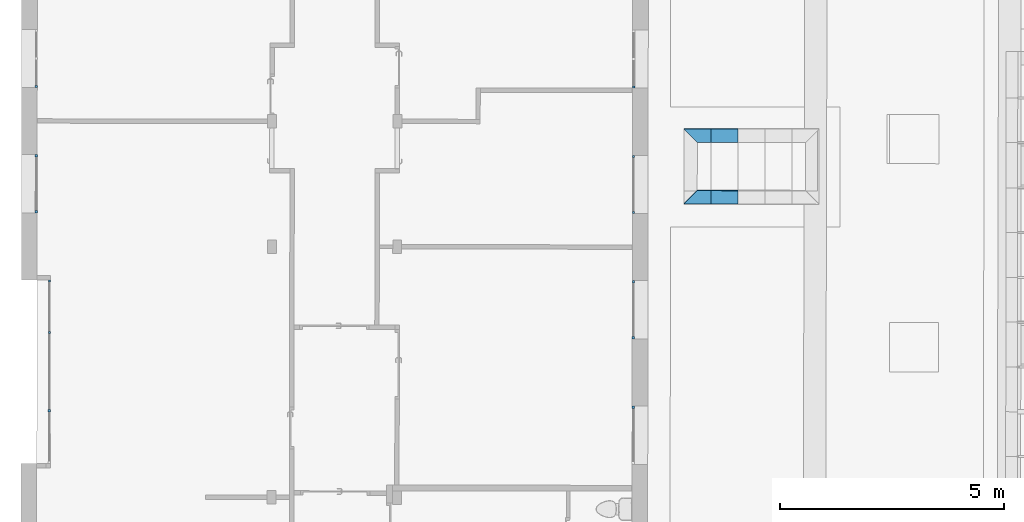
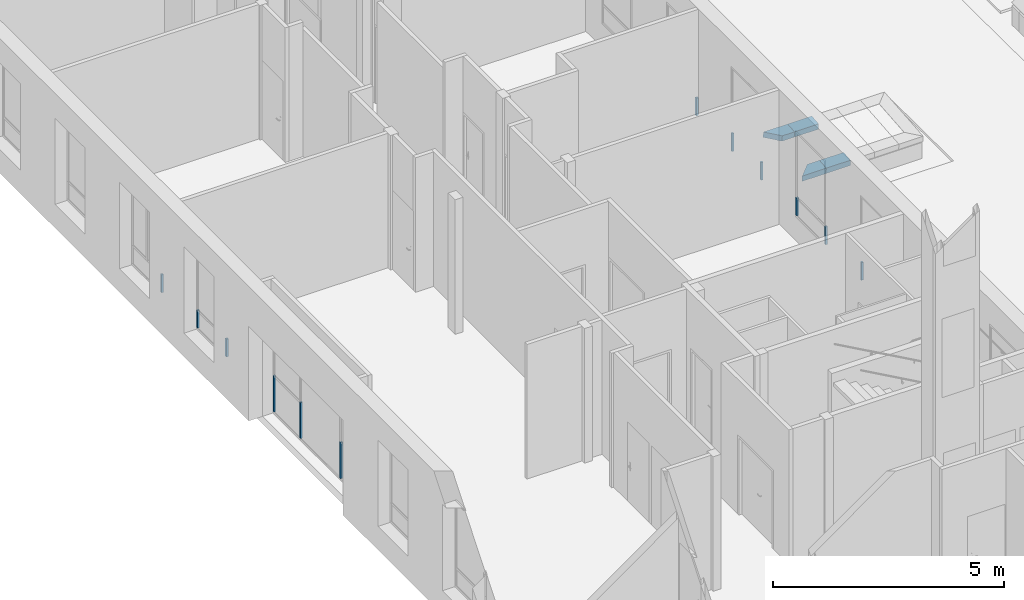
# One storey, part 24 of 101: 16 members, 8 elements without a shape of their own.
"""IFC2X3 building model written with IfcOpenShell, lengths in metres."""

from ifc_helpers import new_model, entity, si_unit, converted_unit, derived_unit, direction, frame, frame_2d, origin, origin_2d_with_axis, place, context, subcontext, project, spatial, polyline, rectangle, outline, extrude, source, transform, mapped, material, type_object, type_shapes, element, aggregate, save


model = new_model("IFC2X3")

# Units and contexts
model_context = context("Model", 3, precision=1e-05, world=origin(), true_north=direction((6.123233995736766e-17, 1.0)))
body_context = subcontext(model_context, "Body", "Model", "MODEL_VIEW")
ifc_project = project(units=[si_unit("LENGTHUNIT", "METRE"), si_unit("AREAUNIT", "SQUARE_METRE"), converted_unit("PLANEANGLEUNIT", "DEGREE", entity("IfcPlaneAngleMeasure", 0.017453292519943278), si_unit("PLANEANGLEUNIT", "RADIAN"), dimensions=[0, 0, 0, 0, 0, 0, 0]), derived_unit("THERMALTRANSMITTANCEUNIT", [(si_unit("MASSUNIT", "GRAM", prefix="KILO"), 1), (si_unit("THERMODYNAMICTEMPERATUREUNIT", "KELVIN"), -1), (si_unit("TIMEUNIT", "SECOND"), -3)])], contexts=[model_context])

# Site, building, storey
site_placement = place(None, frame((1253.6752467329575, 2072.143113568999, 91.49999999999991), z_axis=(0.0, 0.0, 1.0), x_axis=(0.7237211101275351, 0.6900925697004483, 0.0)))
site = spatial("IfcSite", under=ifc_project, at=site_placement, Name="Surface", CompositionType="ELEMENT")
building_placement = place(site_placement, origin())
building = spatial("IfcBuilding", under=site, at=building_placement, CompositionType="ELEMENT")
storey_placement = place(building_placement, origin())
storey = spatial("IfcBuildingStorey", under=building, at=storey_placement, Name="0- Rdc", CompositionType="ELEMENT", Elevation=-5.764692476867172e-13)

# Curtain wall, members
curtain_wall_type_1 = type_object("IfcCurtainWallType", Name="Mur-rideau:Menuiserie Ext 1F+1OB VERTIC", PredefinedType="NOTDEFINED")
curtain_wall_1_placement = place(storey_placement, origin())
curtain_wall_1 = element("IfcCurtainWall", 1, at=curtain_wall_1_placement, inside=storey, type_object=curtain_wall_type_1, Name="Mur-rideau:Menuiserie Ext 1F+1OB VERTIC", ObjectType="Mur-rideau:Menuiserie Ext 1F+1OB VERTIC")
ifc_material_1 = material(Name="OMD_Aluminium Men Ext")
member_type_1 = type_object("IfcMemberType", Name="Meneau rectangulaire:50x50", PredefinedType="MULLION", material=ifc_material_1)
shared_shape_1 = source(origin(), body_context, "Body", "SweptSolid", [
    extrude(rectangle(XDim=0.05, YDim=0.049999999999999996, at=origin_2d_with_axis()), frame((-0.025, 0.0, -0.4699999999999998), z_axis=(0.0, 0.0, 1.0), x_axis=(-1.0, 0.0, 0.0)), (0.0, 0.0, 1.0), 0.4699999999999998),
])
type_shapes(member_type_1, [shared_shape_1])
member_1_placement = place(curtain_wall_1_placement, frame((159.56004066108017, 20.33143924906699, 0.6699999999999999), z_axis=(0.0, 0.0, -1.0), x_axis=(0.6911544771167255, 0.7227070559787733, 0.0)))
member_1 = element("IfcMember", 2, at=member_1_placement, type_object=member_type_1, material=ifc_material_1, Name="Meneau rectangulaire:50x50", ObjectType="Meneau rectangulaire:50x50", context=body_context, shape_type="MappedRepresentation", body=[
    mapped(shared_shape_1, transform((0.0, 0.0, 0.0), scale=1.0)),
])
member_type_2 = type_object("IfcMemberType", Name="Meneau rectangulaire:50x50", PredefinedType="MULLION", material=ifc_material_1)
shared_shape_2 = source(origin(), body_context, "Body", "SweptSolid", [
    extrude(rectangle(XDim=0.05, YDim=0.049999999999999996, at=origin_2d_with_axis()), frame((-0.025, 0.0, -0.4699999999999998), z_axis=(0.0, 0.0, 1.0), x_axis=(-1.0, 0.0, 0.0)), (0.0, 0.0, 1.0), 0.4699999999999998),
])
type_shapes(member_type_2, [shared_shape_2])
member_2_placement = place(curtain_wall_1_placement, frame((158.66175001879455, 19.392139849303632, 1.14), z_axis=(0.0, 0.0, 1.0), x_axis=(-0.6911544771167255, -0.7227070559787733, 0.0)))
member_2 = element("IfcMember", 3, at=member_2_placement, type_object=member_type_2, material=ifc_material_1, Name="Meneau rectangulaire:50x50", ObjectType="Meneau rectangulaire:50x50", context=body_context, shape_type="MappedRepresentation", body=[
    mapped(shared_shape_2, transform((0.0, 0.0, 0.0), scale=1.0)),
])
aggregate(curtain_wall_1, [member_1, member_2])

# Curtain wall, member
curtain_wall_2_placement = place(storey_placement, origin())
curtain_wall_2 = element("IfcCurtainWall", 4, at=curtain_wall_2_placement, inside=storey, type_object=curtain_wall_type_1, Name="Mur-rideau:Menuiserie Ext 1F+1OB VERTIC", ObjectType="Mur-rideau:Menuiserie Ext 1F+1OB VERTIC")
member_3_placement = place(curtain_wall_2_placement, frame((160.59650469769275, 21.41617649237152, 1.14), z_axis=(0.0, 0.0, 1.0), x_axis=(-0.6911544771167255, -0.7227070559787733, 0.0)))
member_3 = element("IfcMember", 5, at=member_3_placement, type_object=member_type_2, material=ifc_material_1, Name="Meneau rectangulaire:50x50", ObjectType="Meneau rectangulaire:50x50", context=body_context, shape_type="MappedRepresentation", body=[
    mapped(shared_shape_2, transform((0.0, 0.0, 0.0), scale=1.0)),
])
aggregate(curtain_wall_2, [member_3])

curtain_wall_3_placement = place(storey_placement, origin())
curtain_wall_3 = element("IfcCurtainWall", 6, at=curtain_wall_3_placement, inside=storey, type_object=curtain_wall_type_1, Name="Mur-rideau:Menuiserie Ext 1F+1OB VERTIC", ObjectType="Mur-rideau:Menuiserie Ext 1F+1OB VERTIC")
member_type_3 = type_object("IfcMemberType", Name="Meneau rectangulaire:50x50", PredefinedType="MULLION", material=ifc_material_1)
shared_shape_3 = source(origin(), body_context, "Body", "SweptSolid", [
    extrude(rectangle(XDim=0.05, YDim=0.049999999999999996, at=origin_2d_with_axis()), frame((-0.025, 0.0, -0.4699999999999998), z_axis=(0.0, 0.0, 1.0), x_axis=(-1.0, 0.0, 0.0)), (0.0, 0.0, 1.0), 0.4699999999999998),
])
type_shapes(member_type_3, [shared_shape_3])
member_4_placement = place(curtain_wall_3_placement, frame((169.20438315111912, 11.117999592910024, 0.6699999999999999), z_axis=(0.0, 0.0, -1.0), x_axis=(0.6909838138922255, 0.722870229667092, 0.0)))
member_4 = element("IfcMember", 7, at=member_4_placement, type_object=member_type_3, material=ifc_material_1, Name="Meneau rectangulaire:50x50", ObjectType="Meneau rectangulaire:50x50", context=body_context, shape_type="MappedRepresentation", body=[
    mapped(shared_shape_3, transform((0.0, 0.0, 0.0), scale=1.0)),
])

curtain_wall_4_placement = place(storey_placement, origin())
curtain_wall_4 = element("IfcCurtainWall", 8, at=curtain_wall_4_placement, inside=storey, type_object=curtain_wall_type_1, Name="Mur-rideau:Menuiserie Ext 1F+1OB VERTIC", ObjectType="Mur-rideau:Menuiserie Ext 1F+1OB VERTIC")
member_5_placement = place(curtain_wall_4_placement, frame((167.26962847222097, 9.093962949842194, 0.6699999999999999), z_axis=(0.0, 0.0, -1.0), x_axis=(0.6909838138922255, 0.722870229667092, 0.0)))
member_5 = element("IfcMember", 9, at=member_5_placement, type_object=member_type_3, material=ifc_material_1, Name="Meneau rectangulaire:50x50", ObjectType="Meneau rectangulaire:50x50", context=body_context, shape_type="MappedRepresentation", body=[
    mapped(shared_shape_3, transform((0.0, 0.0, 0.0), scale=1.0)),
])

curtain_wall_5_placement = place(storey_placement, origin())
curtain_wall_5 = element("IfcCurtainWall", 10, at=curtain_wall_5_placement, inside=storey, type_object=curtain_wall_type_1, Name="Mur-rideau:Menuiserie Ext 1F+1OB VERTIC", ObjectType="Mur-rideau:Menuiserie Ext 1F+1OB VERTIC")
member_6_placement = place(curtain_wall_5_placement, frame((165.33487379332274, 7.069926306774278, 0.6699999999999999), z_axis=(0.0, 0.0, -1.0), x_axis=(0.6909838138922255, 0.722870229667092, 0.0)))
member_6 = element("IfcMember", 11, at=member_6_placement, type_object=member_type_3, material=ifc_material_1, Name="Meneau rectangulaire:50x50", ObjectType="Meneau rectangulaire:50x50", context=body_context, shape_type="MappedRepresentation", body=[
    mapped(shared_shape_3, transform((0.0, 0.0, 0.0), scale=1.0)),
])
aggregate(curtain_wall_5, [member_6])

curtain_wall_6_placement = place(storey_placement, origin())
curtain_wall_6 = element("IfcCurtainWall", 12, at=curtain_wall_6_placement, inside=storey, type_object=curtain_wall_type_1, Name="Mur-rideau:Menuiserie Ext 1F+1OB VERTIC", ObjectType="Mur-rideau:Menuiserie Ext 1F+1OB VERTIC")
member_type_4 = type_object("IfcMemberType", Name="Meneau rectangulaire:50x50", PredefinedType="MULLION", material=ifc_material_1)
shared_shape_4 = source(origin(), body_context, "Body", "SweptSolid", [
    extrude(rectangle(XDim=0.05, YDim=0.05000000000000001, at=origin_2d_with_axis()), frame((-0.025, 0.0, -0.4699999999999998), z_axis=(0.0, 0.0, 1.0), x_axis=(-1.0, 0.0, 0.0)), (0.0, 0.0, 1.0), 0.4699999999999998),
])
type_shapes(member_type_4, [shared_shape_4])
member_7_placement = place(curtain_wall_6_placement, frame((170.24106899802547, 12.202524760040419, 1.14), z_axis=(0.0, 0.0, 1.0), x_axis=(-0.6909838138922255, -0.722870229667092, 0.0)))
member_7 = element("IfcMember", 13, at=member_7_placement, type_object=member_type_4, material=ifc_material_1, Name="Meneau rectangulaire:50x50", ObjectType="Meneau rectangulaire:50x50", context=body_context, shape_type="MappedRepresentation", body=[
    mapped(shared_shape_4, transform((0.0, 0.0, 0.0), scale=1.0)),
])
aggregate(curtain_wall_6, [member_7])

# Member
member_8_placement = place(curtain_wall_3_placement, frame((168.30631431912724, 10.178488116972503, 1.14), z_axis=(0.0, 0.0, 1.0), x_axis=(-0.6909838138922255, -0.722870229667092, 0.0)))
member_8 = element("IfcMember", 14, at=member_8_placement, type_object=member_type_4, material=ifc_material_1, Name="Meneau rectangulaire:50x50", ObjectType="Meneau rectangulaire:50x50", context=body_context, shape_type="MappedRepresentation", body=[
    mapped(shared_shape_4, transform((0.0, 0.0, 0.0), scale=1.0)),
])

aggregate(curtain_wall_3, [member_4, member_8])

member_9_placement = place(curtain_wall_4_placement, frame((166.3715596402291, 8.154451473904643, 1.14), z_axis=(0.0, 0.0, 1.0), x_axis=(-0.6909838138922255, -0.722870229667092, 0.0)))
member_9 = element("IfcMember", 15, at=member_9_placement, type_object=member_type_4, material=ifc_material_1, Name="Meneau rectangulaire:50x50", ObjectType="Meneau rectangulaire:50x50", context=body_context, shape_type="MappedRepresentation", body=[
    mapped(shared_shape_4, transform((0.0, 0.0, 0.0), scale=1.0)),
])

aggregate(curtain_wall_4, [member_5, member_9])

# Curtain wall, members
curtain_wall_7_placement = place(storey_placement, origin())
curtain_wall_7 = element("IfcCurtainWall", 16, at=curtain_wall_7_placement, inside=storey, type_object=curtain_wall_type_1, Name="Mur-rideau:Menuiserie Ext 1F+1OB VERTIC", ObjectType="Mur-rideau:Menuiserie Ext 1F+1OB VERTIC")
member_type_5 = type_object("IfcMemberType", Name="Meneau rectangulaire:50x50", PredefinedType="MULLION", material=ifc_material_1)
shared_shape_5 = source(origin(), body_context, "Body", "SweptSolid", [
    extrude(rectangle(XDim=0.05, YDim=0.05, at=frame_2d((0.0, -1.734723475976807e-18), x_axis=(1.0, 0.0))), frame((0.0, 0.0, -0.95), z_axis=(0.0, 0.0, 1.0), x_axis=(-1.0, 0.0, 0.0)), (0.0, 0.0, 1.0), 0.95),
])
type_shapes(member_type_5, [shared_shape_5])
member_10_placement = place(curtain_wall_7_placement, frame((155.82572794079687, 15.993610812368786, 0.05), z_axis=(0.0, 0.0, -1.0), x_axis=(-0.6909838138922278, -0.7228702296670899, 0.0)))
member_10 = element("IfcMember", 17, at=member_10_placement, type_object=member_type_5, material=ifc_material_1, Name="Meneau rectangulaire:50x50", ObjectType="Meneau rectangulaire:50x50", context=body_context, shape_type="MappedRepresentation", body=[
    mapped(shared_shape_5, transform((0.0, 0.0, 0.0), scale=1.0)),
])
member_11_placement = place(curtain_wall_7_placement, frame((157.0314946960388, 17.25501936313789, 0.05), z_axis=(0.0, 0.0, -1.0), x_axis=(-0.6909838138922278, -0.7228702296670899, 0.0)))
member_11 = element("IfcMember", 18, at=member_11_placement, type_object=member_type_5, material=ifc_material_1, Name="Meneau rectangulaire:50x50", ObjectType="Meneau rectangulaire:50x50", context=body_context, shape_type="MappedRepresentation", body=[
    mapped(shared_shape_5, transform((0.0, 0.0, 0.0), scale=1.0)),
])
member_type_6 = type_object("IfcMemberType", Name="Meneau rectangulaire:50x50", PredefinedType="MULLION", material=ifc_material_1)
shared_shape_6 = source(origin(), body_context, "Body", "SweptSolid", [
    extrude(rectangle(XDim=0.05, YDim=0.049999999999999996, at=origin_2d_with_axis()), frame((-0.025, 0.0, -0.95), z_axis=(0.0, 0.0, 1.0), x_axis=(-1.0, 0.0, 0.0)), (0.0, 0.0, 1.0), 0.95),
])
type_shapes(member_type_6, [shared_shape_6])
member_12_placement = place(curtain_wall_7_placement, frame((157.84340067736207, 18.10439188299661, 1.0), z_axis=(0.0, 0.0, 1.0), x_axis=(0.6909838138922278, 0.7228702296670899, 0.0)))
member_12 = element("IfcMember", 19, at=member_12_placement, type_object=member_type_6, material=ifc_material_1, Name="Meneau rectangulaire:50x50", ObjectType="Meneau rectangulaire:50x50", context=body_context, shape_type="MappedRepresentation", body=[
    mapped(shared_shape_6, transform((0.0, 0.0, 0.0), scale=1.0)),
])
aggregate(curtain_wall_7, [member_10, member_12, member_11])

# Roof, members
curtain_wall_type_2 = type_object("IfcCurtainWallType", Name="Vitres inclinées:Toit en verre 1 m x 2 m", PredefinedType="NOTDEFINED")
roof_placement = place(storey_placement, origin())
roof = element("IfcRoof", 20, at=roof_placement, inside=storey, type_object=curtain_wall_type_2, Name="Vitres inclinées:Toit en verre 1 m x 2 m", ObjectType="Vitres inclinées:Toit en verre 1 m x 2 m", ShapeType="NOTDEFINED")
ifc_material_2 = material(Name="OMD_Aluminium blanc")
member_type_7 = type_object("IfcMemberType", Name="Meneau rectangulaire:22x300", PredefinedType="MULLION", material=ifc_material_2)
shared_shape_7 = source(origin(), body_context, "Body", "SweptSolid", [
    extrude(outline(polyline([(-0.37679172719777, -0.15000000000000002), (0.2267705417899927, -0.15), (0.2267705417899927, 0.14999999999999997), (-0.07674935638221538, 0.14999999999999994), (-0.37679172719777, -0.15000000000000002)])), frame((-0.15000000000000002, -0.010000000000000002, -0.37679172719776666), z_axis=(0.0, 1.0, 0.0), x_axis=(0.0, 0.0, -1.0)), (0.0, 0.0, 1.0), 0.14999999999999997),
])
type_shapes(member_type_7, [shared_shape_7])
member_13_placement = place(roof_placement, frame((170.4247189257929, 10.769874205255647, 0.3916918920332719), z_axis=(-0.7227730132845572, 0.6910855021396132, 0.0), x_axis=(0.6884557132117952, 0.720022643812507, 0.08715574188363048)))
member_13 = element("IfcMember", 21, at=member_13_placement, type_object=member_type_7, material=ifc_material_2, Name="Meneau rectangulaire:22x300", ObjectType="Meneau rectangulaire:22x300", context=body_context, shape_type="MappedRepresentation", body=[
    mapped(shared_shape_7, transform((0.0, 0.0, 0.0), scale=1.0)),
])
member_type_8 = type_object("IfcMemberType", Name="Meneau rectangulaire:22x300", PredefinedType="MULLION", material=ifc_material_2)
shared_shape_8 = source(origin(), body_context, "Body", "SweptSolid", [
    extrude(outline(polyline([(-0.22678081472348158, -0.15), (0.3767807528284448, -0.14999999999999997), (0.07678087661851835, 0.15), (-0.22678081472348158, 0.14999999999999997), (-0.22678081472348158, -0.15)])), frame((-0.15, -0.00999999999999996, -0.2267808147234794), z_axis=(0.0, 1.0, 0.0), x_axis=(0.0, 0.0, -1.0)), (0.0, 0.0, 1.0), 0.14999999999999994),
])
type_shapes(member_type_8, [shared_shape_8])
member_14_placement = place(roof_placement, frame((169.70086425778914, 9.139134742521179, 0.24479977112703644), z_axis=(0.7228699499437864, -0.6909841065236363, 0.0), x_axis=(-0.6883547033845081, -0.7201192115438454, -0.08715574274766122)))
member_14 = element("IfcMember", 22, at=member_14_placement, type_object=member_type_8, material=ifc_material_2, Name="Meneau rectangulaire:22x300", ObjectType="Meneau rectangulaire:22x300", context=body_context, shape_type="MappedRepresentation", body=[
    mapped(shared_shape_8, transform((0.0, 0.0, 0.0), scale=1.0)),
])
member_type_9 = type_object("IfcMemberType", Name="Meneau rectangulaire:22x300", PredefinedType="MULLION", material=ifc_material_2)
shared_shape_9 = source(origin(), body_context, "Body", "SweptSolid", [
    extrude(rectangle(XDim=0.29999999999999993, YDim=0.15000000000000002, at=origin_2d_with_axis()), frame((-0.14999999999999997, 0.06499999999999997, -0.6035622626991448), z_axis=(0.0, 0.0, 1.0), x_axis=(-1.0, 0.0, 0.0)), (0.0, 0.0, 1.0), 0.6035622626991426),
])
type_shapes(member_type_9, [shared_shape_9])
member_15_placement = place(roof_placement, frame((170.13716128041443, 8.722082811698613, 0.24479977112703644), z_axis=(0.7228699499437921, -0.6909841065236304, 0.0), x_axis=(-0.6883547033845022, -0.720119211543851, -0.08715574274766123)))
member_15 = element("IfcMember", 23, at=member_15_placement, type_object=member_type_9, material=ifc_material_2, Name="Meneau rectangulaire:22x300", ObjectType="Meneau rectangulaire:22x300", context=body_context, shape_type="MappedRepresentation", body=[
    mapped(shared_shape_9, transform((0.0, 0.0, 0.0), scale=1.0)),
])
member_type_10 = type_object("IfcMemberType", Name="Meneau rectangulaire:22x300", PredefinedType="MULLION", material=ifc_material_2)
shared_shape_10 = source(origin(), body_context, "Body", "SweptSolid", [
    extrude(rectangle(XDim=0.29999999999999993, YDim=0.15000000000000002, at=origin_2d_with_axis()), frame((-0.14999999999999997, 0.06499999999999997, -0.6035622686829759), z_axis=(0.0, 0.0, 1.0), x_axis=(-1.0, 0.0, 0.0)), (0.0, 0.0, 1.0), 0.6035622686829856),
])
type_shapes(member_type_10, [shared_shape_10])
member_16_placement = place(roof_placement, frame((170.86095744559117, 10.352761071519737, 0.39168448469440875), z_axis=(-0.7227730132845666, 0.6910855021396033, 0.0), x_axis=(0.6884557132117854, 0.7200226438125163, 0.08715574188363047)))
member_16 = element("IfcMember", 24, at=member_16_placement, type_object=member_type_10, material=ifc_material_2, Name="Meneau rectangulaire:22x300", ObjectType="Meneau rectangulaire:22x300", context=body_context, shape_type="MappedRepresentation", body=[
    mapped(shared_shape_10, transform((0.0, 0.0, 0.0), scale=1.0)),
])
aggregate(roof, [member_13, member_14, member_15, member_16])

save(model, "model.ifc")
